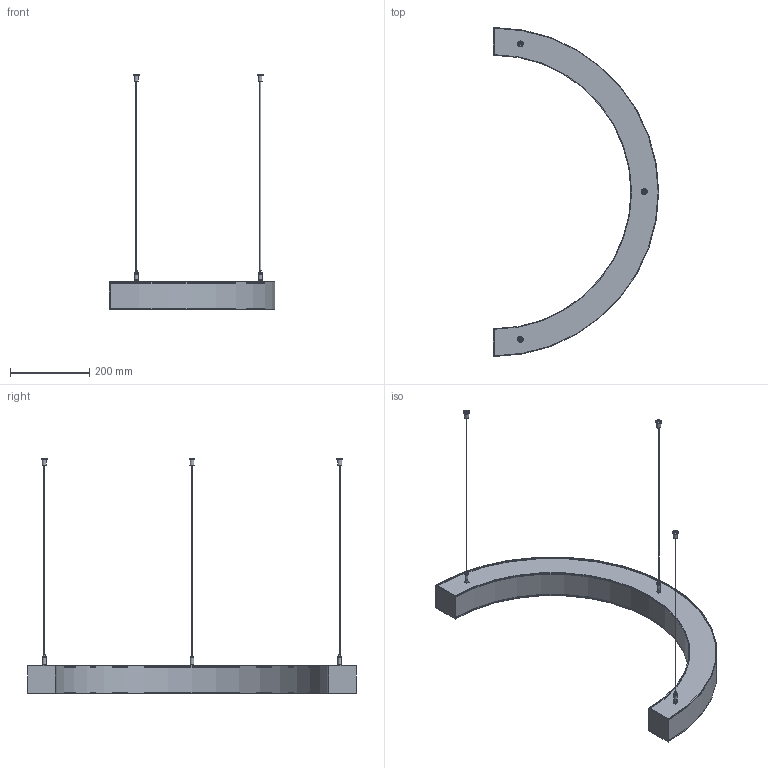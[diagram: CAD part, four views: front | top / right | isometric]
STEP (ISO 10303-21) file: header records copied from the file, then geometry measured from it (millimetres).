
FILE_DESCRIPTION(('STEP AP203'), '1');
FILE_NAME('Half RIN 830mm', '', ('UNSPECIFIED'), ('UNSPECIFIED'), 'C3D Converter', 'C3D Toolkit', '');
FILE_SCHEMA(('CONFIG_CONTROL_DESIGN'));
Length unit declared in the file: millimetre
Assembly tree (13 placements, depth 4):
  (unnamed)
    (unnamed)
    (unnamed)
    (unnamed)
    (unnamed)  x3
      (unnamed)
        (unnamed)
        (unnamed)
      (unnamed)
      (unnamed)
    (unnamed)  x2
Bounding box: 417.5 x 830 x 593 mm (x, y, z)
Volume: 555104.9 mm3; surface area: 748649.8 mm2
Topology: 18 solids, 18 shells, 163 faces, 315 edges, 209 vertices
Faces by surface type: plane 111, cylinder 49, cone 3
Full cylindrical faces by diameter (mm): 2 x3, 2.5 x3, 4 x3, 4.5 x3, 4.7 x3, 5 x6, 6 x3, 8.8 x3, 9 x6, 11 x3, 15 x3
Entity records: 2699 total; most frequent: DIRECTION 380, CARTESIAN_POINT 333, ORIENTED_EDGE 278, AXIS2_PLACEMENT_3D 150, EDGE_CURVE 139, EDGE_LOOP 108, VERTEX_POINT 103, LINE 80
